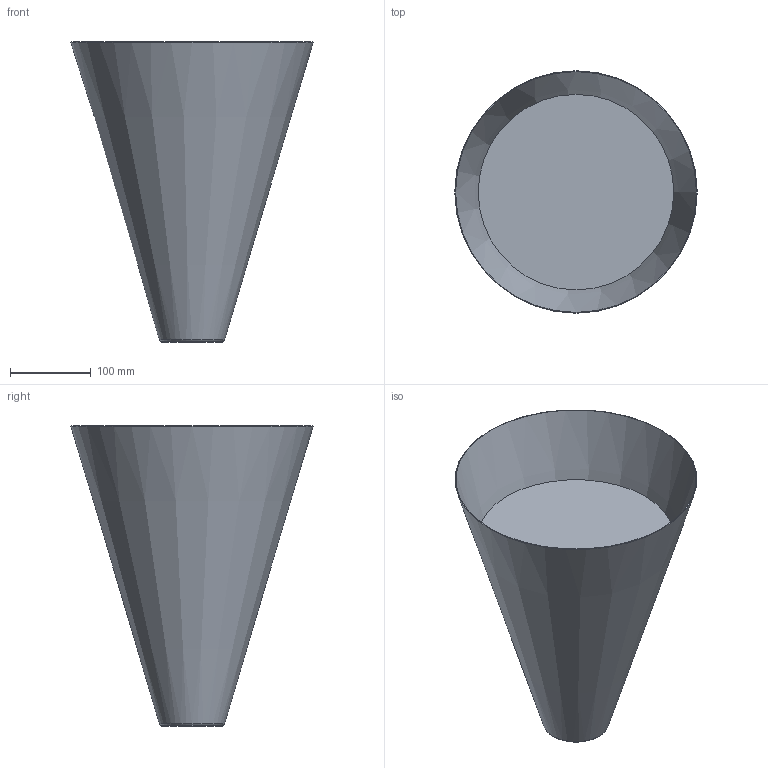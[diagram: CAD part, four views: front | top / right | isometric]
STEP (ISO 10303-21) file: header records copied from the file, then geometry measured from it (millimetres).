
FILE_DESCRIPTION(/* description */ (''),/* implementation_level */ '2;1');
FILE_NAME(/* name */ 'OPO_GDO.stp',/* time_stamp */ '2025-09-29T09:04:23+02:00',/* author */ ('gian.noche'),/* organization */ (''),/* preprocessor_version */ 'ST-DEVELOPER v19.2',/* originating_system */ 'Autodesk Inventor 2023',/* authorisation */ '');
FILE_SCHEMA (('AUTOMOTIVE_DESIGN { 1 0 10303 214 3 1 1 }'));
Length unit declared in the file: millimetre
Products named in the file (1): IDP_238_OPO_GDO_Semplifica_1
Bounding box: 300 x 300 x 371.49 mm (x, y, z)
Volume: 294503.6 mm3; surface area: 562142 mm2
Topology: 2 solids, 2 shells, 12 faces, 19 edges, 12 vertices
Faces by surface type: plane 5, cone 3, cylinder 2, torus 2
Full cylindrical faces by diameter (mm): 75 x1, 242 x1
Entity records: 323 total; most frequent: DIRECTION 59, CARTESIAN_POINT 44, ORIENTED_EDGE 38, AXIS2_PLACEMENT_3D 27, EDGE_CURVE 19, CIRCLE 14, EDGE_LOOP 13, FACE_OUTER_BOUND 12
